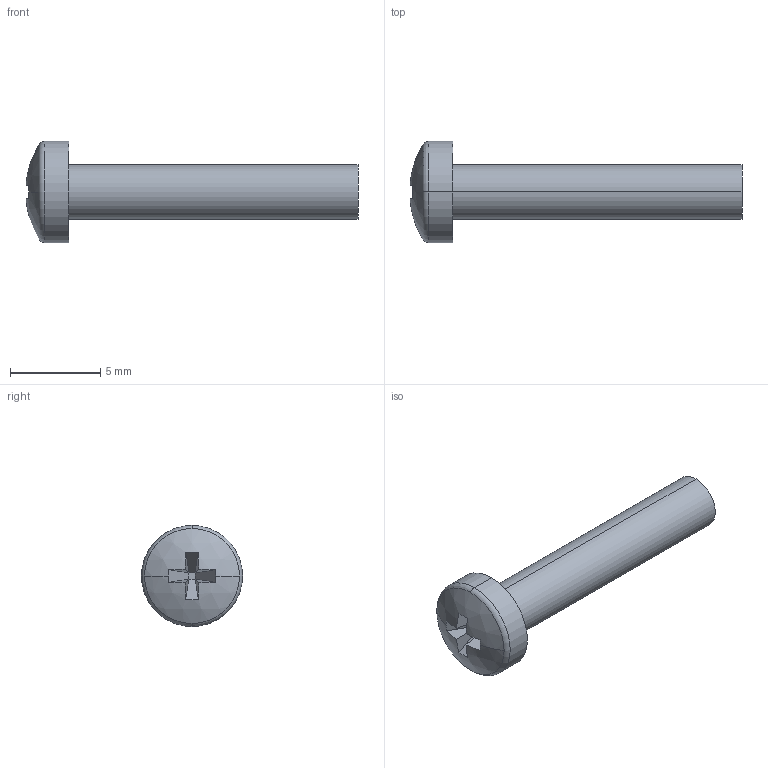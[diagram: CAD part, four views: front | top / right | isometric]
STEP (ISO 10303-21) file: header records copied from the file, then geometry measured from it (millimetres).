
FILE_DESCRIPTION (( 'STEP AP203' ), '1' );
FILE_NAME ('02_08_m3x16screw.STEP', '2020-03-05T10:23:42', ( '' ), ( '' ), 'SwSTEP 2.0', 'SolidWorks 2019', '' );
FILE_SCHEMA (( 'CONFIG_CONTROL_DESIGN' ));
Length unit declared in the file: millimetre
Products named in the file (1): 02_08_m3x16screw
Bounding box: 18.37 x 5.6 x 5.6 mm (x, y, z)
Volume: 159.2 mm3; surface area: 236.7 mm2
Topology: 1 solids, 1 shells, 23 faces, 50 edges, 30 vertices
Faces by surface type: plane 15, cylinder 4, torus 2, sphere 2
Entity records: 711 total; most frequent: DIRECTION 128, CARTESIAN_POINT 104, ORIENTED_EDGE 100, AXIS2_PLACEMENT_3D 54, EDGE_CURVE 50, VERTEX_POINT 30, CIRCLE 30, EDGE_LOOP 24
